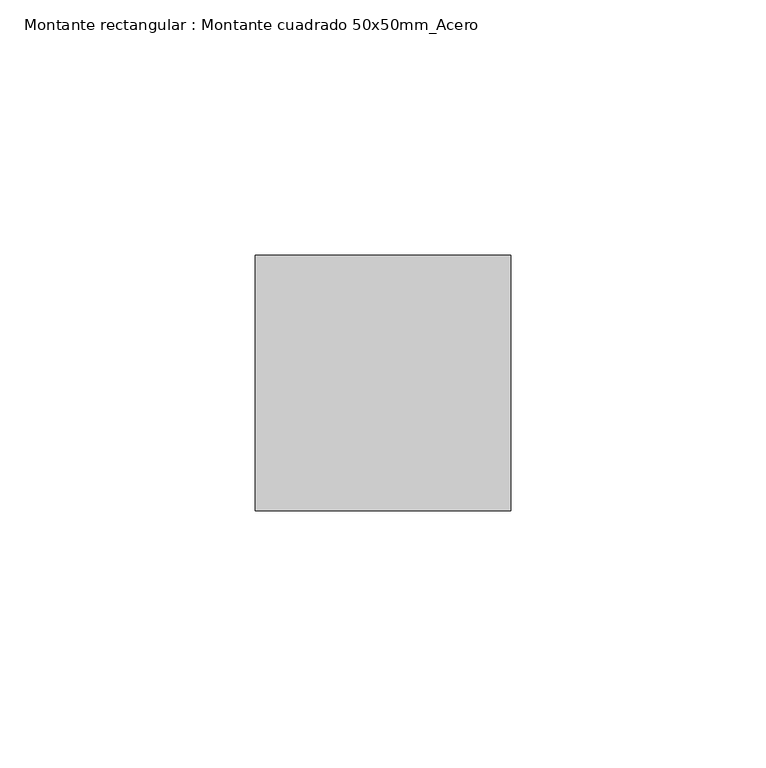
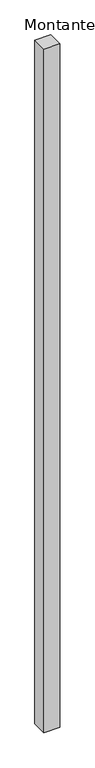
"""IFC4 building model written with IfcOpenShell, lengths in millimetres: member geometry, Montante rectangular : Montante cuadrado 50x50mm_Acero."""

from ifc_helpers import new_model, si_unit, frame, origin, place, context, project, spatial, polyline, outline, extrude, source, transform, mapped, element, save


def montante_rectangular_montante_cuadrado_50x50mm_acero_f065012c(model_context):
    return source(origin(), model_context, "Body", "SweptSolid", [
        extrude(outline(polyline([(-50.0, 0.0), (-50.0, 50.0), (0.0, 50.0), (0.0, 0.0), (-50.0, 0.0)])), frame((0.0, 0.0, -2300.0), z_axis=(0.0, 0.0, 1.0), x_axis=(1.0, 0.0, 0.0)), (0.0, 0.0, 1.0), 2300.0),
    ])


if __name__ == "__main__":
    model = new_model("IFC4")
    model_context = context("Model", 3, world=origin())
    ifc_project = project(units=[si_unit("LENGTHUNIT", "METRE", prefix="MILLI")], contexts=[model_context])
    site = spatial("IfcSite", under=ifc_project)
    building = spatial("IfcBuilding", under=site)
    placement = place(None, origin())
    montante_rectangular_montante_cuadrado_50x50mm_acero_shape = montante_rectangular_montante_cuadrado_50x50mm_acero_f065012c(model_context)
    element("IfcMember", 1, ObjectType="Montante rectangular : Montante cuadrado 50x50mm_Acero", at=placement, inside=building, context=model_context, shape_type="MappedRepresentation", body=[
        mapped(montante_rectangular_montante_cuadrado_50x50mm_acero_shape, transform((0.0, 0.0, 0.0), x_axis=(1.0, 0.0, 0.0), y_axis=(0.0, 1.0, 0.0), z_axis=(0.0, 0.0, 1.0))),
    ])
    save(model, "model.ifc")
